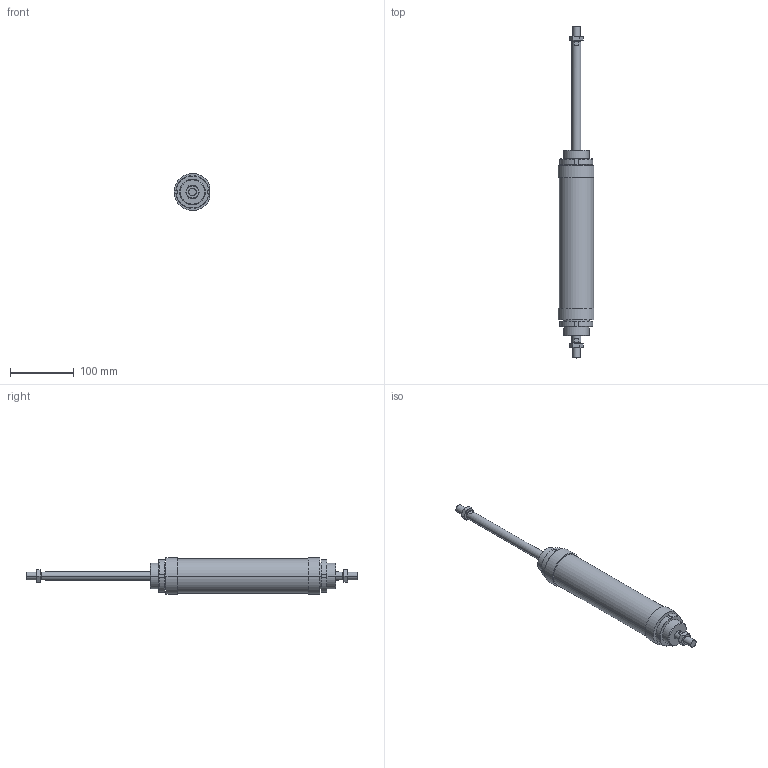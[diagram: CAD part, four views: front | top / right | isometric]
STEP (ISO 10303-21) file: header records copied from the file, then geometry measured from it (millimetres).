
FILE_DESCRIPTION((''),'2;1');
FILE_NAME('I:\DOC-EDP\Lib-3d\1200\CILINDRI\1262\1262_50_0160.stp','2003-04-02T19:16:02',('maffial1'),(''),'Autodesk Inventor (R) 6.0','Autodesk Inventor (R) 6.0','');
FILE_SCHEMA(('AUTOMOTIVE_DESIGN { 1 0 10303 214 1 1 1 1 }'));
Length unit declared in the file: millimetre
Products named in the file (5): 1262_50_0160; S1262_50_160; C1262_50_160; 1200_50_05; 1200_50_06
Assembly tree (6 placements, depth 2):
  1262_50_0160
    S1262_50_160
    C1262_50_160
    1200_50_05  x2
    1200_50_06  x2
Bounding box: 56.6 x 522 x 57.85 mm (x, y, z)
Volume: 678686.7 mm3; surface area: 100837 mm2
Topology: 6 solids, 6 shells, 182 faces, 424 edges, 264 vertices
Faces by surface type: plane 66, cone 56, cylinder 30, bspline 30
Entity records: 3737 total; most frequent: CARTESIAN_POINT 969, DIRECTION 572, ORIENTED_EDGE 548, EDGE_CURVE 274, AXIS2_PLACEMENT_3D 227, VERTEX_POINT 172, EDGE_LOOP 136, FACE_OUTER_BOUND 120
